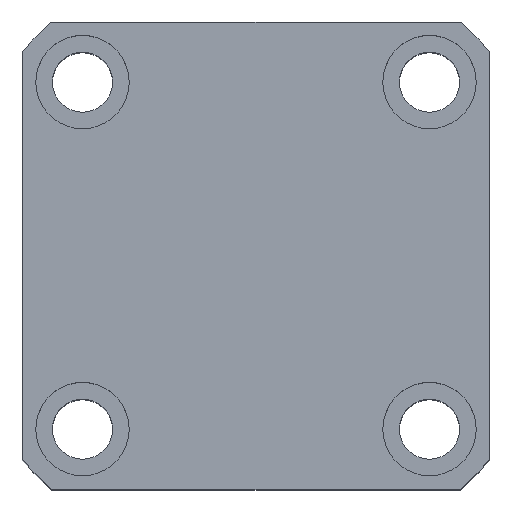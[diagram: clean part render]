
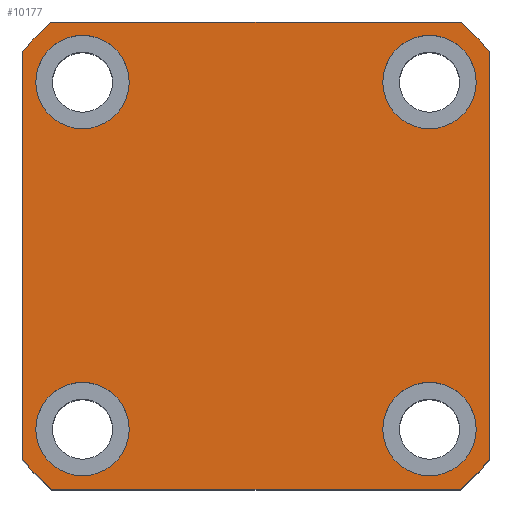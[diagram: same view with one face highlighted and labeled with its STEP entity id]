
A CAD part, top view. The second image highlights one B-rep face of the part: STEP entity #10177.
In plain terms, the highlighted planar face has unit normal (0, 0, 1).
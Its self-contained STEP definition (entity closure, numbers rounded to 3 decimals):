
#19 = EDGE_CURVE ( 'NONE', #8372, #2996, #7947, .T. ) ;
#72 = DIRECTION ( 'NONE',  ( 1., 0., 0. ) ) ;
#88 = AXIS2_PLACEMENT_3D ( 'NONE', #11047, #4732, #12112 ) ;
#189 = DIRECTION ( 'NONE',  ( 0., 0., 1. ) ) ;
#236 = CARTESIAN_POINT ( 'NONE',  ( -26., 26., 75. ) ) ;
#625 = ORIENTED_EDGE ( 'NONE', *, *, #2026, .F. ) ;
#677 = EDGE_CURVE ( 'NONE', #7057, #4620, #13078, .T. ) ;
#905 = AXIS2_PLACEMENT_3D ( 'NONE', #1333, #8709, #2412 ) ;
#993 = AXIS2_PLACEMENT_3D ( 'NONE', #11131, #4816, #12196 ) ;
#1001 = CARTESIAN_POINT ( 'NONE',  ( -19., -26., 75. ) ) ;
#1280 = ORIENTED_EDGE ( 'NONE', *, *, #12442, .T. ) ;
#1305 = ORIENTED_EDGE ( 'NONE', *, *, #11370, .F. ) ;
#1323 = DIRECTION ( 'NONE',  ( 1., 0., 0. ) ) ;
#1333 = CARTESIAN_POINT ( 'NONE',  ( 26., -26., 75. ) ) ;
#1389 = VERTEX_POINT ( 'NONE', #3551 ) ;
#1518 = DIRECTION ( 'NONE',  ( 0., -1., 0. ) ) ;
#1568 = CARTESIAN_POINT ( 'NONE',  ( 26., 26., 75. ) ) ;
#1578 = PLANE ( 'NONE',  #993 ) ;
#1618 = DIRECTION ( 'NONE',  ( 0., 0., 1. ) ) ;
#1663 = DIRECTION ( 'NONE',  ( 1., 0., 0. ) ) ;
#2026 = EDGE_CURVE ( 'NONE', #4620, #7057, #7294, .T. ) ;
#2157 = CARTESIAN_POINT ( 'NONE',  ( 19., 26., 75. ) ) ;
#2160 = ORIENTED_EDGE ( 'NONE', *, *, #11244, .F. ) ;
#2291 = AXIS2_PLACEMENT_3D ( 'NONE', #6525, #189, #7585 ) ;
#2412 = DIRECTION ( 'NONE',  ( 1., 0., 0. ) ) ;
#2435 = EDGE_CURVE ( 'NONE', #13007, #12517, #8099, .T. ) ;
#2472 = ORIENTED_EDGE ( 'NONE', *, *, #9384, .F. ) ;
#2537 = CARTESIAN_POINT ( 'NONE',  ( -35., 30.615, 75. ) ) ;
#2594 = FACE_BOUND ( 'NONE', #13723, .T. ) ;
#2689 = CARTESIAN_POINT ( 'NONE',  ( -30.615, -35., 75. ) ) ;
#2795 = AXIS2_PLACEMENT_3D ( 'NONE', #4464, #11837, #5517 ) ;
#2906 = VERTEX_POINT ( 'NONE', #13609 ) ;
#2909 = CIRCLE ( 'NONE', #3327, 7. ) ;
#2948 = AXIS2_PLACEMENT_3D ( 'NONE', #236, #7628, #1323 ) ;
#2954 = CARTESIAN_POINT ( 'NONE',  ( 30.615, 35., 75. ) ) ;
#2996 = VERTEX_POINT ( 'NONE', #1001 ) ;
#3208 = EDGE_CURVE ( 'NONE', #11423, #6428, #13668, .T. ) ;
#3327 = AXIS2_PLACEMENT_3D ( 'NONE', #3846, #11200, #4895 ) ;
#3398 = VECTOR ( 'NONE', #5261, 1000. ) ;
#3551 = CARTESIAN_POINT ( 'NONE',  ( -19., 26., 75. ) ) ;
#3624 = CARTESIAN_POINT ( 'NONE',  ( -33., -26., 75. ) ) ;
#3805 = ORIENTED_EDGE ( 'NONE', *, *, #677, .F. ) ;
#3846 = CARTESIAN_POINT ( 'NONE',  ( -26., 26., 75. ) ) ;
#3945 = LINE ( 'NONE', #6195, #12003 ) ;
#4145 = CARTESIAN_POINT ( 'NONE',  ( -26., -26., 75. ) ) ;
#4219 = CIRCLE ( 'NONE', #905, 7. ) ;
#4288 = LINE ( 'NONE', #5513, #9867 ) ;
#4366 = VERTEX_POINT ( 'NONE', #12110 ) ;
#4379 = AXIS2_PLACEMENT_3D ( 'NONE', #11828, #5508, #12892 ) ;
#4464 = CARTESIAN_POINT ( 'NONE',  ( 26., -26., 75. ) ) ;
#4558 = CARTESIAN_POINT ( 'NONE',  ( 0., 0., 75. ) ) ;
#4620 = VERTEX_POINT ( 'NONE', #2157 ) ;
#4701 = VECTOR ( 'NONE', #1518, 1000. ) ;
#4705 = CIRCLE ( 'NONE', #13209, 46.5 ) ;
#4732 = DIRECTION ( 'NONE',  ( 0., 0., 1. ) ) ;
#4816 = DIRECTION ( 'NONE',  ( 0., 0., 1. ) ) ;
#4857 = CIRCLE ( 'NONE', #11068, 7. ) ;
#4895 = DIRECTION ( 'NONE',  ( 1., 0., 0. ) ) ;
#5043 = LINE ( 'NONE', #8882, #4701 ) ;
#5261 = DIRECTION ( 'NONE',  ( 1., 0., 0. ) ) ;
#5287 = EDGE_LOOP ( 'NONE', ( #8414, #2472 ) ) ;
#5408 = FACE_BOUND ( 'NONE', #9007, .T. ) ;
#5508 = DIRECTION ( 'NONE',  ( 0., 0., 1. ) ) ;
#5513 = CARTESIAN_POINT ( 'NONE',  ( 35., 35., 75. ) ) ;
#5517 = DIRECTION ( 'NONE',  ( 1., 0., 0. ) ) ;
#5546 = VERTEX_POINT ( 'NONE', #7957 ) ;
#5577 = VERTEX_POINT ( 'NONE', #8004 ) ;
#5619 = DIRECTION ( 'NONE',  ( 1., 0., 0. ) ) ;
#5706 = CARTESIAN_POINT ( 'NONE',  ( 0., 0., 75. ) ) ;
#5763 = VERTEX_POINT ( 'NONE', #11820 ) ;
#6106 = EDGE_CURVE ( 'NONE', #1389, #4366, #2909, .T. ) ;
#6195 = CARTESIAN_POINT ( 'NONE',  ( -35., 35., 75. ) ) ;
#6253 = DIRECTION ( 'NONE',  ( 0., 0., 1. ) ) ;
#6402 = EDGE_CURVE ( 'NONE', #2906, #5546, #4705, .T. ) ;
#6414 = DIRECTION ( 'NONE',  ( 0., 0., 1. ) ) ;
#6428 = VERTEX_POINT ( 'NONE', #2537 ) ;
#6525 = CARTESIAN_POINT ( 'NONE',  ( 0., 0., 75. ) ) ;
#6624 = CARTESIAN_POINT ( 'NONE',  ( -30.615, 35., 75. ) ) ;
#6718 = EDGE_CURVE ( 'NONE', #12517, #2906, #11130, .T. ) ;
#6748 = DIRECTION ( 'NONE',  ( 1., 0., 0. ) ) ;
#6864 = EDGE_CURVE ( 'NONE', #5577, #11561, #11950, .T. ) ;
#7057 = VERTEX_POINT ( 'NONE', #12073 ) ;
#7243 = DIRECTION ( 'NONE',  ( -1., 0., 0. ) ) ;
#7255 = DIRECTION ( 'NONE',  ( 1., 0., 0. ) ) ;
#7258 = ORIENTED_EDGE ( 'NONE', *, *, #6864, .F. ) ;
#7294 = CIRCLE ( 'NONE', #88, 7. ) ;
#7585 = DIRECTION ( 'NONE',  ( 1., 0., 0. ) ) ;
#7628 = DIRECTION ( 'NONE',  ( 0., 0., 1. ) ) ;
#7646 = CIRCLE ( 'NONE', #4379, 46.5 ) ;
#7653 = CARTESIAN_POINT ( 'NONE',  ( -35., -30.615, 75. ) ) ;
#7729 = AXIS2_PLACEMENT_3D ( 'NONE', #4558, #11929, #5619 ) ;
#7756 = EDGE_CURVE ( 'NONE', #5546, #5763, #4288, .T. ) ;
#7796 = ORIENTED_EDGE ( 'NONE', *, *, #2435, .T. ) ;
#7947 = CIRCLE ( 'NONE', #9460, 7. ) ;
#7957 = CARTESIAN_POINT ( 'NONE',  ( 35., -30.615, 75. ) ) ;
#8004 = CARTESIAN_POINT ( 'NONE',  ( 33., -26., 75. ) ) ;
#8099 = CIRCLE ( 'NONE', #7729, 46.5 ) ;
#8204 = FACE_BOUND ( 'NONE', #12890, .T. ) ;
#8308 = ORIENTED_EDGE ( 'NONE', *, *, #8763, .T. ) ;
#8372 = VERTEX_POINT ( 'NONE', #3624 ) ;
#8414 = ORIENTED_EDGE ( 'NONE', *, *, #6106, .F. ) ;
#8537 = FACE_BOUND ( 'NONE', #5287, .T. ) ;
#8675 = ORIENTED_EDGE ( 'NONE', *, *, #6718, .T. ) ;
#8694 = CIRCLE ( 'NONE', #2948, 7. ) ;
#8709 = DIRECTION ( 'NONE',  ( 0., 0., 1. ) ) ;
#8763 = EDGE_CURVE ( 'NONE', #9852, #11423, #3945, .T. ) ;
#8882 = CARTESIAN_POINT ( 'NONE',  ( -35., 35., 75. ) ) ;
#9007 = EDGE_LOOP ( 'NONE', ( #3805, #625 ) ) ;
#9384 = EDGE_CURVE ( 'NONE', #4366, #1389, #8694, .T. ) ;
#9460 = AXIS2_PLACEMENT_3D ( 'NONE', #4145, #6253, #7255 ) ;
#9852 = VERTEX_POINT ( 'NONE', #2954 ) ;
#9867 = VECTOR ( 'NONE', #12896, 1000. ) ;
#9941 = ORIENTED_EDGE ( 'NONE', *, *, #7756, .T. ) ;
#10133 = CARTESIAN_POINT ( 'NONE',  ( 19., -26., 75. ) ) ;
#10177 = ADVANCED_FACE ( 'NONE', ( #8204, #2594, #5408, #8537, #13500 ), #1578, .T. ) ;
#11047 = CARTESIAN_POINT ( 'NONE',  ( 26., 26., 75. ) ) ;
#11068 = AXIS2_PLACEMENT_3D ( 'NONE', #12746, #6414, #72 ) ;
#11130 = LINE ( 'NONE', #11569, #3398 ) ;
#11131 = CARTESIAN_POINT ( 'NONE',  ( 0., 0., 75. ) ) ;
#11200 = DIRECTION ( 'NONE',  ( 0., 0., 1. ) ) ;
#11244 = EDGE_CURVE ( 'NONE', #2996, #8372, #4857, .T. ) ;
#11370 = EDGE_CURVE ( 'NONE', #11561, #5577, #4219, .T. ) ;
#11423 = VERTEX_POINT ( 'NONE', #6624 ) ;
#11561 = VERTEX_POINT ( 'NONE', #10133 ) ;
#11569 = CARTESIAN_POINT ( 'NONE',  ( -35., -35., 75. ) ) ;
#11820 = CARTESIAN_POINT ( 'NONE',  ( 35., 30.615, 75. ) ) ;
#11828 = CARTESIAN_POINT ( 'NONE',  ( 0., 0., 75. ) ) ;
#11837 = DIRECTION ( 'NONE',  ( 0., 0., 1. ) ) ;
#11929 = DIRECTION ( 'NONE',  ( 0., 0., 1. ) ) ;
#11950 = CIRCLE ( 'NONE', #2795, 7. ) ;
#12003 = VECTOR ( 'NONE', #7243, 1000. ) ;
#12052 = ORIENTED_EDGE ( 'NONE', *, *, #6402, .T. ) ;
#12073 = CARTESIAN_POINT ( 'NONE',  ( 33., 26., 75. ) ) ;
#12110 = CARTESIAN_POINT ( 'NONE',  ( -33., 26., 75. ) ) ;
#12112 = DIRECTION ( 'NONE',  ( 1., 0., 0. ) ) ;
#12196 = DIRECTION ( 'NONE',  ( 1., 0., 0. ) ) ;
#12392 = EDGE_LOOP ( 'NONE', ( #9941, #12446, #8308, #12557, #1280, #7796, #8675, #12052 ) ) ;
#12442 = EDGE_CURVE ( 'NONE', #6428, #13007, #5043, .T. ) ;
#12446 = ORIENTED_EDGE ( 'NONE', *, *, #12909, .T. ) ;
#12517 = VERTEX_POINT ( 'NONE', #2689 ) ;
#12557 = ORIENTED_EDGE ( 'NONE', *, *, #3208, .T. ) ;
#12746 = CARTESIAN_POINT ( 'NONE',  ( -26., -26., 75. ) ) ;
#12890 = EDGE_LOOP ( 'NONE', ( #2160, #13200 ) ) ;
#12892 = DIRECTION ( 'NONE',  ( 1., 0., 0. ) ) ;
#12896 = DIRECTION ( 'NONE',  ( 0., 1., 0. ) ) ;
#12909 = EDGE_CURVE ( 'NONE', #5763, #9852, #7646, .T. ) ;
#13007 = VERTEX_POINT ( 'NONE', #7653 ) ;
#13078 = CIRCLE ( 'NONE', #13463, 7. ) ;
#13094 = DIRECTION ( 'NONE',  ( 0., 0., 1. ) ) ;
#13200 = ORIENTED_EDGE ( 'NONE', *, *, #19, .F. ) ;
#13209 = AXIS2_PLACEMENT_3D ( 'NONE', #5706, #13094, #6748 ) ;
#13463 = AXIS2_PLACEMENT_3D ( 'NONE', #1568, #1618, #1663 ) ;
#13500 = FACE_OUTER_BOUND ( 'NONE', #12392, .T. ) ;
#13609 = CARTESIAN_POINT ( 'NONE',  ( 30.615, -35., 75. ) ) ;
#13668 = CIRCLE ( 'NONE', #2291, 46.5 ) ;
#13723 = EDGE_LOOP ( 'NONE', ( #7258, #1305 ) ) ;
